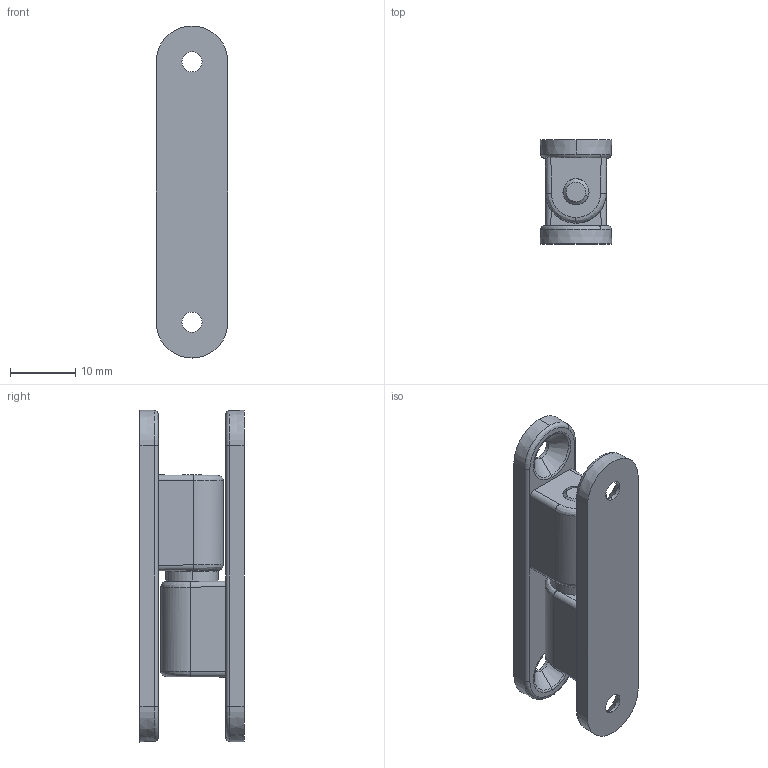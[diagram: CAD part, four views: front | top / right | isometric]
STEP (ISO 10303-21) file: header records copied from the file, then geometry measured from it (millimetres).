
FILE_DESCRIPTION (( 'STEP AP203' ), '1' );
FILE_NAME ('XG02-041-2.STEP', '2023-12-07T08:00:13', ( '' ), ( '' ), 'SwSTEP 2.0', 'SolidWorks 2020', '' );
FILE_SCHEMA (( 'CONFIG_CONTROL_DESIGN' ));
Length unit declared in the file: millimetre
Products named in the file (4): XG02-041-2; CL231-3-01; CL231-3菜え; CL231-3种赽
Assembly tree (3 placements, depth 2):
  XG02-041-2
    CL231-3-01
    CL231-3菜え
    CL231-3种赽
Bounding box: 11 x 16 x 51 mm (x, y, z)
Volume: 5235.5 mm3; surface area: 4383.9 mm2
Topology: 4 solids, 4 shells, 210 faces, 564 edges, 364 vertices
Faces by surface type: plane 128, cylinder 32, torus 24, cone 18, bspline 8
Entity records: 7488 total; most frequent: CARTESIAN_POINT 1896, ORIENTED_EDGE 1128, DIRECTION 1060, EDGE_CURVE 564, AXIS2_PLACEMENT_3D 400, VERTEX_POINT 364, LINE 260, VECTOR 260
